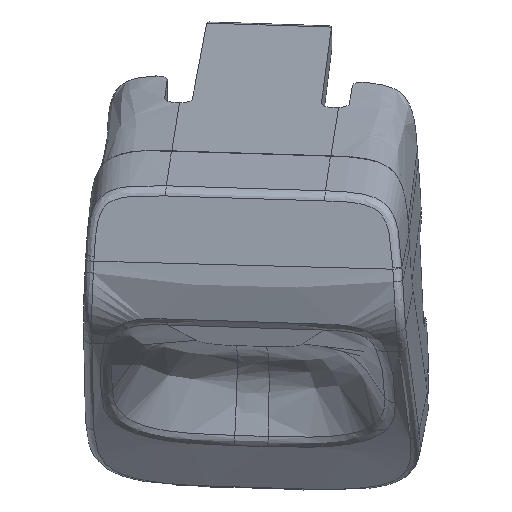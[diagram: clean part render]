
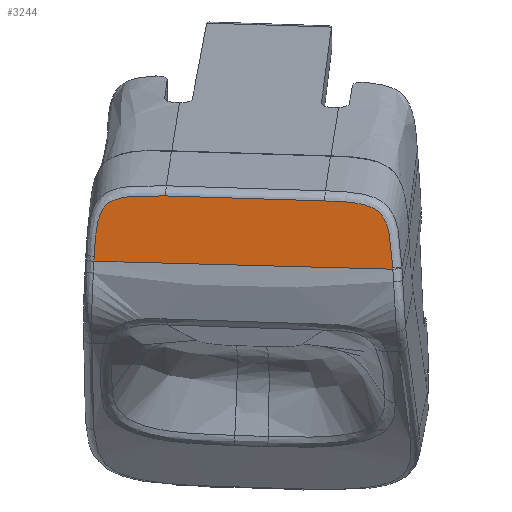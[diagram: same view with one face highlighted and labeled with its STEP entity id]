
A CAD part, top view. The second image highlights one B-rep face of the part: STEP entity #3244.
In plain terms, the highlighted free-form (B-spline) face has degree [1, 1] with [2, 2] control points.
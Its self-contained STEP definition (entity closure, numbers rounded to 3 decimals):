
#3082=CARTESIAN_POINT('Vertex',(-376.796,-964.624,531.923)) ;
#3086=CARTESIAN_POINT('Control Point',(-376.796,-964.624,531.923)) ;
#3087=CARTESIAN_POINT('Control Point',(-381.688,-964.494,531.722)) ;
#3088=CARTESIAN_POINT('Control Point',(-386.589,-964.364,531.52)) ;
#3089=CARTESIAN_POINT('Control Point',(-391.501,-964.233,531.318)) ;
#3090=CARTESIAN_POINT('Control Point',(-396.423,-964.101,531.116)) ;
#3091=CARTESIAN_POINT('Control Point',(-401.359,-963.968,530.913)) ;
#3092=CARTESIAN_POINT('Vertex',(-401.359,-963.968,530.913)) ;
#3151=CARTESIAN_POINT('Control Point',(13.237,-992.557,547.05)) ;
#3152=CARTESIAN_POINT('Control Point',(12.803,-864.692,553.743)) ;
#3153=CARTESIAN_POINT('Control Point',(-623.973,-978.279,520.691)) ;
#3154=CARTESIAN_POINT('Control Point',(-624.432,-850.414,527.383)) ;
#3156=CARTESIAN_POINT('Control Point',(-376.796,-964.624,531.923)) ;
#3157=CARTESIAN_POINT('Control Point',(-376.798,-964.585,531.925)) ;
#3158=CARTESIAN_POINT('Control Point',(-376.8,-964.546,531.927)) ;
#3159=CARTESIAN_POINT('Control Point',(-376.803,-964.505,531.929)) ;
#3160=CARTESIAN_POINT('Vertex',(-376.803,-964.505,531.929)) ;
#3164=CARTESIAN_POINT('Control Point',(-376.803,-964.505,531.929)) ;
#3165=CARTESIAN_POINT('Control Point',(-376.825,-964.088,531.95)) ;
#3166=CARTESIAN_POINT('Control Point',(-376.848,-963.672,531.971)) ;
#3167=CARTESIAN_POINT('Control Point',(-376.876,-963.262,531.991)) ;
#3168=CARTESIAN_POINT('Control Point',(-376.939,-962.551,532.026)) ;
#3169=CARTESIAN_POINT('Control Point',(-377.05,-961.858,532.058)) ;
#3170=CARTESIAN_POINT('Control Point',(-377.109,-961.567,532.07)) ;
#3171=CARTESIAN_POINT('Control Point',(-377.252,-961.018,532.093)) ;
#3172=CARTESIAN_POINT('Control Point',(-377.468,-960.526,532.11)) ;
#3173=CARTESIAN_POINT('Control Point',(-377.594,-960.305,532.116)) ;
#3174=CARTESIAN_POINT('Control Point',(-377.851,-959.98,532.122)) ;
#3175=CARTESIAN_POINT('Control Point',(-378.177,-959.738,532.121)) ;
#3176=CARTESIAN_POINT('Control Point',(-378.337,-959.643,532.119)) ;
#3177=CARTESIAN_POINT('Control Point',(-378.732,-959.453,532.112)) ;
#3178=CARTESIAN_POINT('Control Point',(-379.182,-959.317,532.1)) ;
#3179=CARTESIAN_POINT('Control Point',(-379.447,-959.256,532.092)) ;
#3180=CARTESIAN_POINT('Control Point',(-380.063,-959.146,532.072)) ;
#3181=CARTESIAN_POINT('Control Point',(-380.701,-959.087,532.048)) ;
#3182=CARTESIAN_POINT('Control Point',(-381.061,-959.065,532.034)) ;
#3183=CARTESIAN_POINT('Control Point',(-381.531,-959.043,532.015)) ;
#3184=CARTESIAN_POINT('Control Point',(-382.003,-959.027,531.996)) ;
#3185=CARTESIAN_POINT('Control Point',(-382.167,-959.022,531.989)) ;
#3186=CARTESIAN_POINT('Control Point',(-382.277,-959.018,531.984)) ;
#3187=CARTESIAN_POINT('Control Point',(-382.388,-959.015,531.98)) ;
#3188=CARTESIAN_POINT('Vertex',(-382.388,-959.015,531.98)) ;
#3192=CARTESIAN_POINT('Control Point',(-382.388,-959.015,531.98)) ;
#3193=CARTESIAN_POINT('Control Point',(-386.744,-958.878,531.802)) ;
#3194=CARTESIAN_POINT('Control Point',(-391.101,-958.74,531.624)) ;
#3195=CARTESIAN_POINT('Control Point',(-395.458,-958.603,531.445)) ;
#3196=CARTESIAN_POINT('Vertex',(-395.458,-958.603,531.445)) ;
#3200=CARTESIAN_POINT('Control Point',(-395.458,-958.603,531.445)) ;
#3201=CARTESIAN_POINT('Control Point',(-396.028,-958.585,531.422)) ;
#3202=CARTESIAN_POINT('Control Point',(-396.596,-958.568,531.399)) ;
#3203=CARTESIAN_POINT('Control Point',(-397.149,-958.559,531.376)) ;
#3204=CARTESIAN_POINT('Control Point',(-397.955,-958.579,531.34)) ;
#3205=CARTESIAN_POINT('Control Point',(-398.73,-958.684,531.302)) ;
#3206=CARTESIAN_POINT('Control Point',(-398.97,-958.727,531.289)) ;
#3207=CARTESIAN_POINT('Control Point',(-399.412,-958.833,531.265)) ;
#3208=CARTESIAN_POINT('Control Point',(-399.813,-958.991,531.24)) ;
#3209=CARTESIAN_POINT('Control Point',(-399.993,-959.081,531.227)) ;
#3210=CARTESIAN_POINT('Control Point',(-400.271,-959.258,531.206)) ;
#3211=CARTESIAN_POINT('Control Point',(-400.494,-959.486,531.185)) ;
#3212=CARTESIAN_POINT('Control Point',(-400.584,-959.6,531.175)) ;
#3213=CARTESIAN_POINT('Control Point',(-400.749,-959.863,531.154)) ;
#3214=CARTESIAN_POINT('Control Point',(-400.877,-960.169,531.133)) ;
#3215=CARTESIAN_POINT('Control Point',(-400.934,-960.333,531.122)) ;
#3216=CARTESIAN_POINT('Control Point',(-401.06,-960.764,531.094)) ;
#3217=CARTESIAN_POINT('Control Point',(-401.144,-961.219,531.066)) ;
#3218=CARTESIAN_POINT('Control Point',(-401.184,-961.498,531.05)) ;
#3219=CARTESIAN_POINT('Control Point',(-401.241,-961.998,531.021)) ;
#3220=CARTESIAN_POINT('Control Point',(-401.28,-962.508,530.993)) ;
#3221=CARTESIAN_POINT('Control Point',(-401.294,-962.731,530.98)) ;
#3222=CARTESIAN_POINT('Control Point',(-401.311,-963.025,530.964)) ;
#3223=CARTESIAN_POINT('Control Point',(-401.326,-963.321,530.948)) ;
#3224=CARTESIAN_POINT('Control Point',(-401.331,-963.417,530.943)) ;
#3225=CARTESIAN_POINT('Control Point',(-401.335,-963.487,530.939)) ;
#3226=CARTESIAN_POINT('Control Point',(-401.338,-963.558,530.935)) ;
#3227=CARTESIAN_POINT('Vertex',(-401.338,-963.558,530.935)) ;
#3231=CARTESIAN_POINT('Control Point',(-401.338,-963.558,530.935)) ;
#3232=CARTESIAN_POINT('Control Point',(-401.346,-963.705,530.927)) ;
#3233=CARTESIAN_POINT('Control Point',(-401.353,-963.841,530.92)) ;
#3234=CARTESIAN_POINT('Control Point',(-401.359,-963.968,530.913)) ;
#3094=EDGE_CURVE('',#3083,#3093,#3085,.T.) ;
#3162=EDGE_CURVE('',#3161,#3083,#3155,.F.) ;
#3190=EDGE_CURVE('',#3189,#3161,#3163,.F.) ;
#3198=EDGE_CURVE('',#3197,#3189,#3191,.F.) ;
#3229=EDGE_CURVE('',#3228,#3197,#3199,.F.) ;
#3235=EDGE_CURVE('',#3093,#3228,#3230,.F.) ;
#3237=ORIENTED_EDGE('',*,*,#3162,.F.) ;
#3238=ORIENTED_EDGE('',*,*,#3190,.F.) ;
#3239=ORIENTED_EDGE('',*,*,#3198,.F.) ;
#3240=ORIENTED_EDGE('',*,*,#3229,.F.) ;
#3241=ORIENTED_EDGE('',*,*,#3235,.F.) ;
#3242=ORIENTED_EDGE('',*,*,#3094,.F.) ;
#3244=ADVANCED_FACE('\X2\901F964D5F005173630994AE\X0\-2020.1217',(#3243),#3150,.F.) ;
#3083=VERTEX_POINT('',#3082) ;
#3093=VERTEX_POINT('',#3092) ;
#3161=VERTEX_POINT('',#3160) ;
#3189=VERTEX_POINT('',#3188) ;
#3197=VERTEX_POINT('',#3196) ;
#3228=VERTEX_POINT('',#3227) ;
#3085=B_SPLINE_CURVE_WITH_KNOTS('',5,(#3086,#3087,#3088,#3089,#3090,#3091),.UNSPECIFIED.,.F.,.U.,(6,6),(4695.546,4917.025),.UNSPECIFIED.) ;
#3155=B_SPLINE_CURVE_WITH_KNOTS('',3,(#3156,#3157,#3158,#3159),.UNSPECIFIED.,.F.,.U.,(4,4),(1.665,1.79),.UNSPECIFIED.) ;
#3163=B_SPLINE_CURVE_WITH_KNOTS('',5,(#3164,#3165,#3166,#3167,#3168,#3169,#3170,#3171,#3172,#3173,#3174,#3175,#3176,#3177,#3178,#3179,#3180,#3181,#3182,#3183,#3184,#3185,#3186,#3187),.UNSPECIFIED.,.F.,.U.,(6,3,3,3,3,3,3,6),(3.012,5.97,8.177,10.214,11.792,13.811,16.385,17.166),.UNSPECIFIED.) ;
#3191=B_SPLINE_CURVE_WITH_KNOTS('',3,(#3192,#3193,#3194,#3195),.UNSPECIFIED.,.F.,.U.,(4,4),(16.223,34.731),.UNSPECIFIED.) ;
#3199=B_SPLINE_CURVE_WITH_KNOTS('',5,(#3200,#3201,#3202,#3203,#3204,#3205,#3206,#3207,#3208,#3209,#3210,#3211,#3212,#3213,#3214,#3215,#3216,#3217,#3218,#3219,#3220,#3221,#3222,#3223,#3224,#3225,#3226),.UNSPECIFIED.,.F.,.U.,(6,3,3,3,3,3,3,3,6),(34.716,38.753,40.599,42.271,43.566,44.923,47.018,48.628,49.129),.UNSPECIFIED.) ;
#3230=B_SPLINE_CURVE_WITH_KNOTS('',3,(#3231,#3232,#3233,#3234),.UNSPECIFIED.,.F.,.U.,(4,4),(9.977,10.631),.UNSPECIFIED.) ;
#3150=B_SPLINE_SURFACE_WITH_KNOTS('',1,1,((#3151,#3152),(#3153,#3154)),.UNSPECIFIED.,.F.,.F.,.U.,(2,2),(2,2),(54.171,692.123),(-6.144,121.897),.UNSPECIFIED.) ;
#3236=EDGE_LOOP('',(#3237,#3238,#3239,#3240,#3241,#3242)) ;
#3243=FACE_OUTER_BOUND('',#3236,.T.) ;
